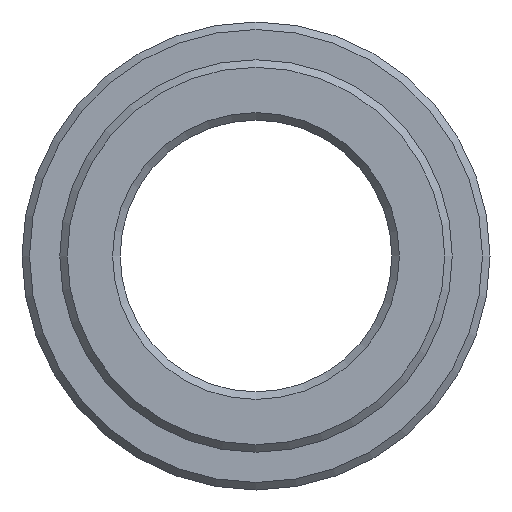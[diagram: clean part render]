
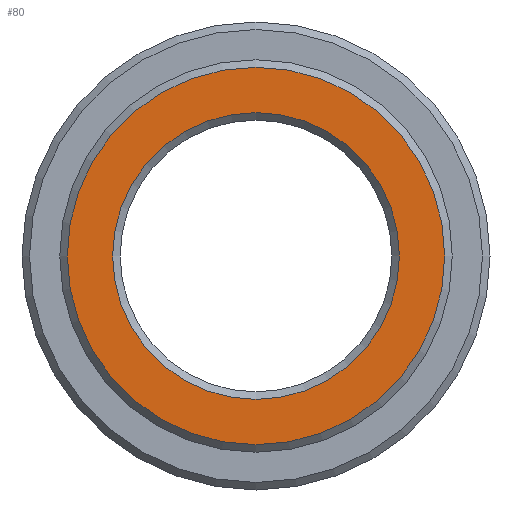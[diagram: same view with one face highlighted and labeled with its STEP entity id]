
A CAD part, front view. The second image highlights one B-rep face of the part: STEP entity #80.
In plain terms, the highlighted planar face has unit normal (0, -1, 0).
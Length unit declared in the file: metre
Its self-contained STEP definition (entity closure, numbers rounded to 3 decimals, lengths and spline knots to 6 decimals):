
#80 = ADVANCED_FACE( '', ( #108, #109 ), #110, .T. );
#108 = FACE_OUTER_BOUND( '', #168, .T. );
#109 = FACE_BOUND( '', #169, .T. );
#110 = PLANE( '', #170 );
#168 = EDGE_LOOP( '', ( #234 ) );
#169 = EDGE_LOOP( '', ( #235 ) );
#170 = AXIS2_PLACEMENT_3D( '', #236, #237, #238 );
#234 = ORIENTED_EDGE( '', *, *, #323, .T. );
#235 = ORIENTED_EDGE( '', *, *, #322, .F. );
#236 = CARTESIAN_POINT( '', ( 0.0095, -0.009, 0. ) );
#237 = DIRECTION( '', ( 0., -1., 0. ) );
#238 = DIRECTION( '', ( 0., 0., -1. ) );
#322 = EDGE_CURVE( '', #345, #345, #346, .T. );
#323 = EDGE_CURVE( '', #347, #347, #348, .T. );
#345 = VERTEX_POINT( '', #385 );
#346 = CIRCLE( '', #386, 0.0095 );
#347 = VERTEX_POINT( '', #387 );
#348 = CIRCLE( '', #388, 0.0125 );
#385 = CARTESIAN_POINT( '', ( 0., -0.009, -0.0095 ) );
#386 = AXIS2_PLACEMENT_3D( '', #428, #429, #430 );
#387 = CARTESIAN_POINT( '', ( 0., -0.009, -0.0125 ) );
#388 = AXIS2_PLACEMENT_3D( '', #431, #432, #433 );
#428 = CARTESIAN_POINT( '', ( 0., -0.009, 0. ) );
#429 = DIRECTION( '', ( 0., -1., 0. ) );
#430 = DIRECTION( '', ( 0., 0., -1. ) );
#431 = CARTESIAN_POINT( '', ( 0., -0.009, 0. ) );
#432 = DIRECTION( '', ( 0., -1., 0. ) );
#433 = DIRECTION( '', ( 0., 0., -1. ) );
